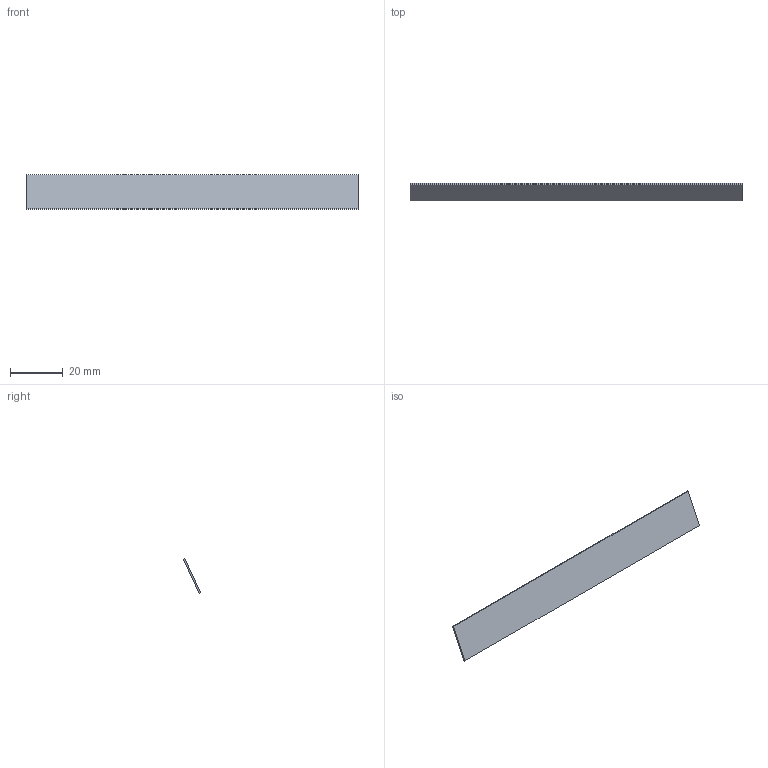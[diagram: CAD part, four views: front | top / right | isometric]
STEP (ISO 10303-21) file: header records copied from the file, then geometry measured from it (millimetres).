
FILE_DESCRIPTION(('Open CASCADE Model'),'2;1');
FILE_NAME('SOLID','2026-10-21T18:57:46',('Author'),('Open CASCADE'), 'Open CASCADE STEP processor 8.0','build123d','Unknown');
FILE_SCHEMA(('AUTOMOTIVE_DESIGN { 1 0 10303 214 1 1 1 1 }'));
Length unit declared in the file: millimetre
Products named in the file (2): SOLID
Assembly tree (1 placements, depth 2):
  SOLID
    SOLID
Bounding box: 125.85 x 6.59 x 13.21 mm (x, y, z)
Volume: 1079.8 mm3; surface area: 3767.5 mm2
Topology: 1 solids, 1 shells, 6 faces, 12 edges, 8 vertices
Faces by surface type: plane 6
Entity records: 328 total; most frequent: CARTESIAN_POINT 64, DIRECTION 40, ORIENTED_EDGE 24, LINE 24, VECTOR 24, PCURVE 24, DEFINITIONAL_REPRESENTATION 24, EDGE_CURVE 12
